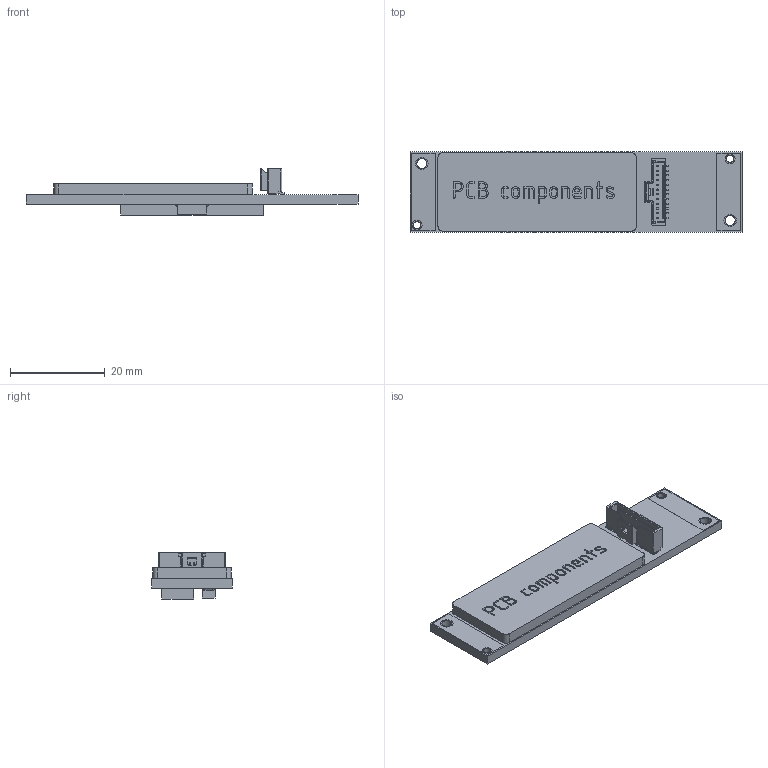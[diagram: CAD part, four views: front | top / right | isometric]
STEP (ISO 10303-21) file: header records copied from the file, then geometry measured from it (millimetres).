
FILE_DESCRIPTION (( 'STEP AP214' ), '1' );
FILE_NAME ('PCB-B.STEP', '2024-01-31T14:25:03', ( '' ), ( '' ), 'SwSTEP 2.0', 'SolidWorks 2022', '' );
FILE_SCHEMA (( 'AUTOMOTIVE_DESIGN' ));
Length unit declared in the file: millimetre
Products named in the file (1): PCB-B
Bounding box: 70 x 17 x 9.74 mm (x, y, z)
Volume: 4551.5 mm3; surface area: 3822.1 mm2
Topology: 1 solids, 1 shells, 857 faces, 2390 edges, 1598 vertices
Faces by surface type: plane 670, bspline 116, cylinder 59, cone 8, sphere 4
Entity records: 34879 total; most frequent: CARTESIAN_POINT 16991, ORIENTED_EDGE 4772, EDGE_CURVE 2386, B_SPLINE_CURVE_WITH_KNOTS 2192, DIRECTION 1686, VERTEX_POINT 1596, EDGE_LOOP 934, FACE_OUTER_BOUND 857
